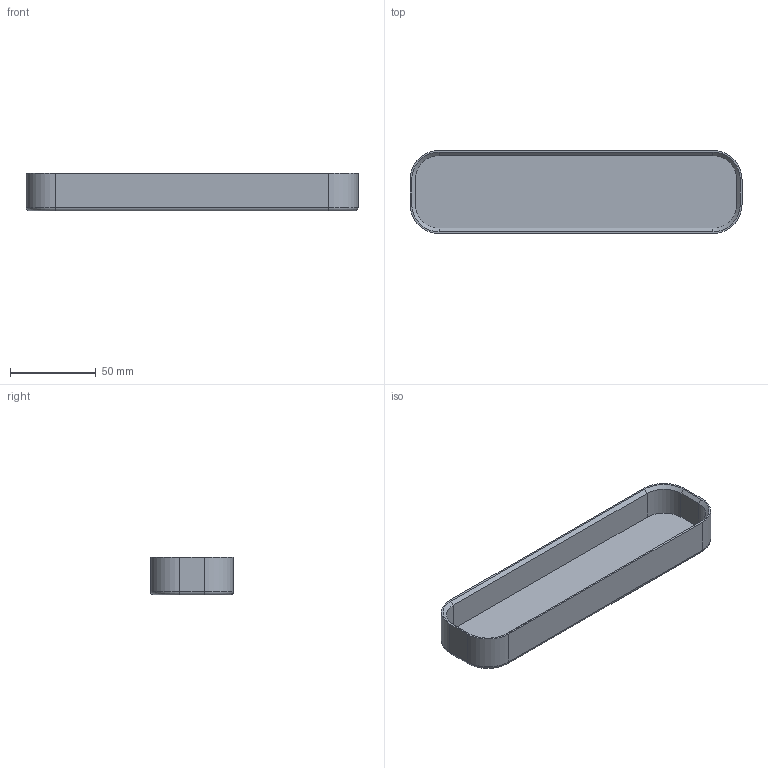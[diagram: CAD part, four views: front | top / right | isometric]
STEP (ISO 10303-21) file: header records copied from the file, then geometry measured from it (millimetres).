
FILE_DESCRIPTION(/* description */ (''),/* implementation_level */ '2;1');
FILE_NAME(/* name */ '1x4 clear internal tray.step',/* time_stamp */ '2026-06-28T18:31:01-03:00',/* author */ (''),/* organization */ (''),/* preprocessor_version */ 'ST-DEVELOPER v20.1',/* originating_system */ 'Autodesk Translation Framework v15.8.0.0',/* authorisation */ '');
FILE_SCHEMA (('AUTOMOTIVE_DESIGN { 1 0 10303 214 3 1 1 }'));
Length unit declared in the file: millimetre
Products named in the file (1): Internal tray parametric
Bounding box: 194 x 48.5 x 22 mm (x, y, z)
Volume: 51655.8 mm3; surface area: 35752.3 mm2
Topology: 1 solids, 1 shells, 35 faces, 80 edges, 48 vertices
Faces by surface type: plane 15, cylinder 12, torus 4, cone 4
Entity records: 1011 total; most frequent: DIRECTION 184, CARTESIAN_POINT 164, ORIENTED_EDGE 160, EDGE_CURVE 80, AXIS2_PLACEMENT_3D 68, LINE 48, VECTOR 48, VERTEX_POINT 48
